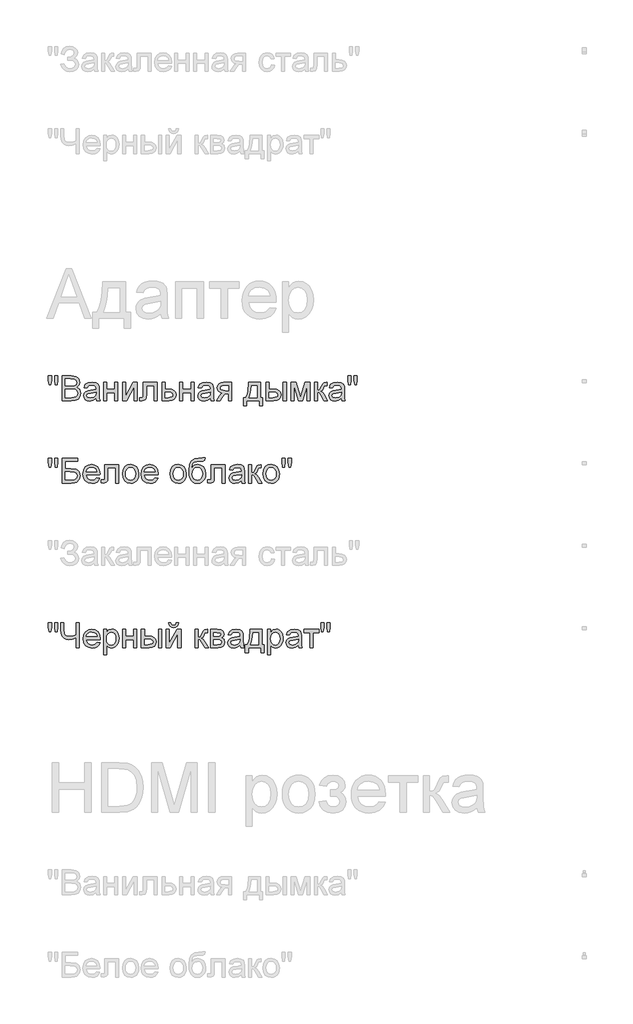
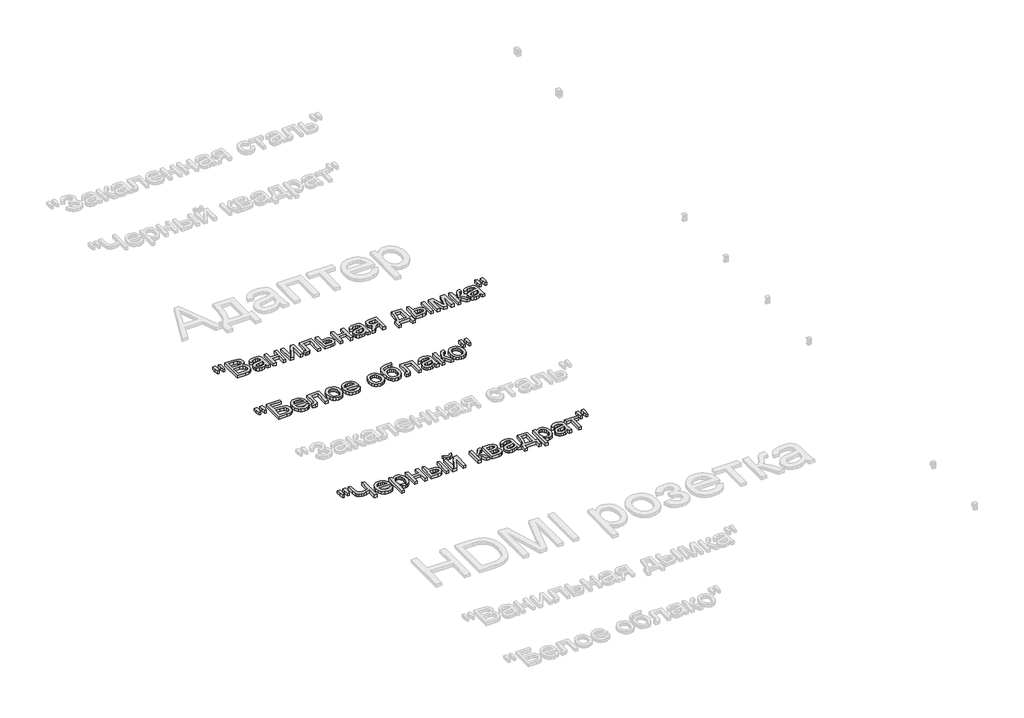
# One storey, part 57 of 168: 3 proxies.
"""IFC4 building model written with IfcOpenShell, lengths in millimetres."""

from ifc_helpers import new_model, si_unit, origin, origin_with_axes, place, context, project, spatial, polyline, outline, extrude, element, save

model = new_model("IFC4")

# Units and contexts
model_context = context("Model", 3, world=origin())
ifc_project = project(units=[si_unit("LENGTHUNIT", "METRE", prefix="MILLI")], contexts=[model_context])

# Site, building, storey
site = spatial("IfcSite", under=ifc_project)
building = spatial("IfcBuilding", under=site)
storey = spatial("IfcBuildingStorey", under=building, Name="Этаж 01", Elevation=0.0)

# Proxies
placement = place(None, origin())
element("IfcBuildingElementProxy", 1, Name="150", ObjectType="150", at=placement, inside=storey, context=model_context, shape_type="SweptSolid", body=[
    extrude(outline(polyline([(54389.7772739, -40970.3300622), (54385.178749, -40941.2305964), (54385.178749, -40916.1778325), (54404.0143071, -40916.1778325), (54404.0143071, -40941.2305964), (54399.8940288, -40970.3300622), (54389.7772739, -40970.3300622)])), origin_with_axes(), (0.0, 0.0, 1.0), 20.0),
    extrude(outline(polyline([(54427.3380256, -40970.3300622), (54422.8498653, -40941.2305964), (54422.8498653, -40916.1778325), (54441.6854234, -40916.1778325), (54441.6854234, -40941.2305964), (54437.2708395, -40970.3300622), (54427.3380256, -40970.3300622)])), origin_with_axes(), (0.0, 0.0, 1.0), 20.0),
    extrude(outline(polyline([(54467.5843159, -41066.8622977), (54467.5843159, -40916.1778325), (54525.0842718, -40916.1778325), (54553.2456385, -40920.6108106), (54562.7094028, -40926.2348066), (54569.8739047, -40934.2408385), (54575.8887753, -40953.517855), (54570.8303979, -40971.1210085), (54555.544901, -40984.4567308), (54566.2180773, -40990.030143), (54574.1045476, -40998.509823), (54578.9743855, -41009.3347507), (54580.5976648, -41021.9439061), (54576.1646868, -41042.19581), (54565.1834092, -41056.6167842), (54548.7942663, -41064.2687297), (54524.6428134, -41066.8622977), (54467.5843159, -41066.8622977)]), holes=[polyline([(54486.4198741, -40977.3933965), (54520.8168406, -40977.3933965), (54540.9031975, -40975.7747157), (54552.9881211, -40968.8033519), (54557.0532171, -40956.5344874), (54553.2640326, -40944.2472287), (54542.4115137, -40936.9815593), (54518.2048784, -40935.0133907), (54486.4198741, -40935.0133907), (54486.4198741, -40977.3933965)]), polyline([(54486.4198741, -41048.0267396), (54525.0474836, -41048.0267396), (54539.0269994, -41047.2909756), (54550.8544055, -41043.1890913), (54558.690292, -41034.819776), (54561.7621067, -41022.1278471), (54558.1568631, -41007.4861437), (54546.4766098, -40998.7489463), (54523.2080736, -40996.2289547), (54486.4198741, -40996.2289547), (54486.4198741, -41048.0267396)])]), origin_with_axes(), (0.0, 0.0, 1.0), 20.0),
    extrude(outline(polyline([(54674.7754556, -41052.7356291), (54656.5101145, -41065.5011344), (54636.3317871, -41069.2167425), (54620.5910362, -41066.9818594), (54608.9797608, -41060.27721), (54601.8198574, -41050.0960758), (54599.433223, -41037.4317381), (54603.0384665, -41022.5325173), (54612.5114279, -41011.7167867), (54625.6999974, -41005.5363691), (54641.9971698, -41002.7036778), (54674.665091, -40996.2289547), (54674.7754556, -40992.0350999), (54673.4786716, -40983.6289963), (54669.5883195, -40978.1291605), (54660.8879103, -40974.0456704), (54648.7661985, -40972.684507), (54629.7099112, -40976.3081446), (54620.6232259, -40989.1656204), (54601.7876677, -40986.8111756), (54609.9362539, -40968.4170758), (54626.3437909, -40957.6381334), (54651.1942197, -40953.8489488), (54674.0212975, -40957.196675), (54686.9155614, -40965.6027786), (54692.6913088, -40978.3866779), (54693.6110137, -40994.8677913), (54693.6110137, -41018.3018744), (54694.5675069, -41051.0249778), (54698.3199033, -41066.8622977), (54679.4843451, -41066.8622977), (54674.7754556, -41052.7356291)]), holes=[polyline([(54674.7754556, -41015.0645128), (54644.3884028, -41020.8402601), (54628.1832009, -41023.8936807), (54620.8439551, -41028.8600876), (54618.2687811, -41036.1073629), (54623.8789816, -41046.2976942), (54640.3417008, -41050.3811843), (54659.3979882, -41045.8746299), (54671.6852468, -41034.9669288), (54674.665091, -41020.3988017), (54674.7754556, -41015.0645128)])]), origin_with_axes(), (0.0, 0.0, 1.0), 20.0),
    extrude(outline(polyline([(54719.5099062, -40956.2033936), (54738.3454644, -40956.2033936), (54738.3454644, -40998.5833994), (54787.7888045, -40998.5833994), (54787.7888045, -40956.2033936), (54806.6243627, -40956.2033936), (54806.6243627, -41066.8622977), (54787.7888045, -41066.8622977), (54787.7888045, -41017.4189576), (54738.3454644, -41017.4189576), (54738.3454644, -41066.8622977), (54719.5099062, -41066.8622977), (54719.5099062, -40956.2033936)])), origin_with_axes(), (0.0, 0.0, 1.0), 20.0),
    extrude(outline(polyline([(54834.8776999, -40956.2033936), (54853.713258, -40956.2033936), (54853.713258, -41040.5955233), (54899.992813, -40956.2033936), (54924.3466011, -40956.2033936), (54924.3466011, -41066.8622977), (54905.511043, -41066.8622977), (54905.511043, -40982.9852028), (54859.5257936, -41066.8622977), (54834.8776999, -41066.8622977), (54834.8776999, -40956.2033936)])), origin_with_axes(), (0.0, 0.0, 1.0), 20.0),
    extrude(outline(polyline([(54962.0177174, -40956.2033936), (55046.7777291, -40956.2033936), (55046.7777291, -41066.7519331), (55027.942171, -41066.7519331), (55027.942171, -40975.0389517), (54980.8532756, -40975.0389517), (54980.8532756, -41027.830018), (54979.5840827, -41052.1838061), (54972.6127189, -41062.4661079), (54956.1316055, -41066.8622977), (54940.8277145, -41065.9058045), (54940.8277145, -41048.0267396), (54949.2522122, -41048.0267396), (54957.7686804, -41046.8679113), (54961.1715888, -41043.1890913), (54962.0177174, -41026.7631603), (54962.0177174, -40956.2033936)])), origin_with_axes(), (0.0, 0.0, 1.0), 20.0),
    extrude(outline(polyline([(55075.0310663, -40956.2033936), (55093.8666245, -40956.2033936), (55093.8666245, -40996.2289547), (55115.5716622, -40996.2289547), (55134.3888263, -40998.587998), (55148.3131598, -41005.6651278), (55156.9215985, -41016.8901272), (55159.791078, -41031.692779), (55157.3492613, -41045.1710556), (55150.0238111, -41056.5432078), (55137.3272837, -41064.2825252), (55118.7722356, -41066.8622977), (55075.0310663, -41066.8622977), (55075.0310663, -40956.2033936)]), holes=[polyline([(55093.8666245, -41048.0267396), (55111.4513839, -41048.0267396), (55134.1680971, -41044.0720081), (55139.2586642, -41039.0090322), (55140.9555199, -41031.7295672), (55135.9339306, -41020.1412843), (55127.8635194, -41016.3337057), (55113.695464, -41015.0645128), (55093.8666245, -41015.0645128), (55093.8666245, -41048.0267396)])]), origin_with_axes(), (0.0, 0.0, 1.0), 20.0),
    extrude(outline(polyline([(55183.3355257, -40956.2033936), (55202.1710839, -40956.2033936), (55202.1710839, -40998.5833994), (55251.614424, -40998.5833994), (55251.614424, -40956.2033936), (55270.4499822, -40956.2033936), (55270.4499822, -41066.8622977), (55251.614424, -41066.8622977), (55251.614424, -41017.4189576), (55202.1710839, -41017.4189576), (55202.1710839, -41066.8622977), (55183.3355257, -41066.8622977), (55183.3355257, -40956.2033936)])), origin_with_axes(), (0.0, 0.0, 1.0), 20.0),
    extrude(outline(polyline([(55369.3366625, -41052.7356291), (55351.0713214, -41065.5011344), (55330.892994, -41069.2167425), (55315.1522431, -41066.9818594), (55303.5409676, -41060.27721), (55296.3810643, -41050.0960758), (55293.9944299, -41037.4317381), (55297.5996734, -41022.5325173), (55307.0726348, -41011.7167867), (55320.2612043, -41005.5363691), (55336.5583767, -41002.7036778), (55369.2262979, -40996.2289547), (55369.3366625, -40992.0350999), (55368.0398785, -40983.6289963), (55364.1495264, -40978.1291605), (55355.4491172, -40974.0456704), (55343.3274054, -40972.684507), (55324.2711181, -40976.3081446), (55315.1844328, -40989.1656204), (55296.3488746, -40986.8111756), (55304.4974608, -40968.4170758), (55320.9049978, -40957.6381334), (55345.7554266, -40953.8489488), (55368.5825044, -40957.196675), (55381.4767683, -40965.6027786), (55387.2525157, -40978.3866779), (55388.1722206, -40994.8677913), (55388.1722206, -41018.3018744), (55389.1287138, -41051.0249778), (55392.8811102, -41066.8622977), (55374.045552, -41066.8622977), (55369.3366625, -41052.7356291)]), holes=[polyline([(55369.3366625, -41015.0645128), (55338.9496097, -41020.8402601), (55322.7444078, -41023.8936807), (55315.405162, -41028.8600876), (55312.829988, -41036.1073629), (55318.4401885, -41046.2976942), (55334.9029077, -41050.3811843), (55353.9591951, -41045.8746299), (55366.2464537, -41034.9669288), (55369.2262979, -41020.3988017), (55369.3366625, -41015.0645128)])]), origin_with_axes(), (0.0, 0.0, 1.0), 20.0),
    extrude(outline(polyline([(55498.8311248, -40956.2033936), (55498.8311248, -41066.8622977), (55479.9955666, -41066.8622977), (55479.9955666, -41024.4822919), (55469.731659, -41024.4822919), (55455.7521432, -41026.8735249), (55442.6187559, -41042.949968), (55427.6091705, -41066.8622977), (55405.8305564, -41066.8622977), (55424.739691, -41036.6223977), (55433.0906122, -41025.7698789), (55440.7793459, -41020.9506247), (55427.9034761, -41017.0050903), (55418.853579, -41009.5094947), (55413.500896, -40999.5398926), (55411.7166683, -40988.172339), (55414.1538865, -40975.278075), (55421.4655412, -40965.0693497), (55433.3941149, -40958.4198826), (55449.6820902, -40956.2033936), (55498.8311248, -40956.2033936)]), holes=[polyline([(55479.9955666, -40975.0389517), (55455.163532, -40975.0389517), (55442.3382459, -40976.1288021), (55435.0587809, -40979.3983534), (55430.5522265, -40989.6070787), (55432.212294, -40996.7853762), (55437.1924965, -41001.7655787), (55460.7185501, -41005.6467337), (55479.9955666, -41005.6467337), (55479.9955666, -40975.0389517)])]), origin_with_axes(), (0.0, 0.0, 1.0), 20.0),
    extrude(outline(polyline([(55602.4266946, -40956.2033936), (55673.0600377, -40956.2033936), (55673.0600377, -41048.0267396), (55687.1867063, -41048.0267396), (55687.1867063, -41097.4700797), (55668.3511482, -41097.4700797), (55668.3511482, -41066.8622977), (55590.6544708, -41066.8622977), (55590.6544708, -41097.4700797), (55571.8189126, -41097.4700797), (55571.8189126, -41048.0267396), (55583.5911365, -41048.0267396), (55592.1489914, -41032.5619002), (55598.1408694, -41012.1030628), (55602.4266946, -40956.2033936)]), holes=[polyline([(55618.907808, -40975.0389517), (55614.4932241, -41017.9523865), (55604.7811394, -41048.0267396), (55654.2244796, -41048.0267396), (55654.2244796, -40975.0389517), (55618.907808, -40975.0389517)])]), origin_with_axes(), (0.0, 0.0, 1.0), 20.0),
    extrude(outline(polyline([(55811.9722791, -40956.2033936), (55830.8078372, -40956.2033936), (55830.8078372, -41066.8622977), (55811.9722791, -41066.8622977), (55811.9722791, -40956.2033936)])), origin_with_axes(), (0.0, 0.0, 1.0), 20.0),
    extrude(outline(polyline([(55708.3767092, -40956.2033936), (55727.2122674, -40956.2033936), (55727.2122674, -40996.2289547), (55750.4991977, -40996.2289547), (55770.6269413, -40998.587998), (55785.5399577, -41005.6651278), (55794.7691973, -41016.8901272), (55797.8456105, -41031.692779), (55795.265838, -41045.1710556), (55787.5265205, -41056.5432078), (55774.1218203, -41064.2825252), (55754.5458996, -41066.8622977), (55708.3767092, -41066.8622977), (55708.3767092, -40956.2033936)]), holes=[polyline([(55727.2122674, -41048.0267396), (55746.5628603, -41048.0267396), (55771.5420478, -41044.0720081), (55777.1430512, -41039.0090322), (55779.0100523, -41031.7295672), (55773.4734283, -41020.1412843), (55764.5936766, -41016.3337057), (55749.0276697, -41015.0645128), (55727.2122674, -41015.0645128), (55727.2122674, -41048.0267396)])]), origin_with_axes(), (0.0, 0.0, 1.0), 20.0),
    extrude(outline(polyline([(55859.0611745, -40956.2033936), (55891.4715782, -40956.2033936), (55916.4507657, -41044.789378), (55943.3797278, -40956.2033936), (55974.4289682, -40956.2033936), (55974.4289682, -41066.8622977), (55955.59341, -41066.8622977), (55955.59341, -40977.7612785), (55928.5172952, -41066.8622977), (55903.7956251, -41066.8622977), (55877.8967326, -40973.4938474), (55877.8967326, -41066.8622977), (55859.0611745, -41066.8622977), (55859.0611745, -40956.2033936)])), origin_with_axes(), (0.0, 0.0, 1.0), 20.0),
    extrude(outline(polyline([(56002.6823054, -40956.2033936), (56021.5178635, -40956.2033936), (56021.5178635, -41003.292289), (56034.136216, -40999.9077746), (56044.4737, -40980.1892997), (56053.0637446, -40963.1747574), (56060.6421137, -40957.6381334), (56074.4192944, -40956.2033936), (56078.024538, -40956.2033936), (56078.024538, -40975.1493163), (56072.9477665, -40975.0389517), (56063.7507166, -40977.0255145), (56057.2759935, -40989.4231377), (56049.6792303, -41002.8324365), (56039.0290465, -41009.3991301), (56050.9116349, -41016.7291788), (56062.5734942, -41032.1710256), (56082.7334275, -41066.8622977), (56061.3226954, -41066.8622977), (56041.5674323, -41032.9067896), (56031.6346184, -41018.5409977), (56021.5178635, -41015.0645128), (56021.5178635, -41066.8622977), (56002.6823054, -41066.8622977), (56002.6823054, -40956.2033936)])), origin_with_axes(), (0.0, 0.0, 1.0), 20.0),
    extrude(outline(polyline([(56165.1389945, -41052.7356291), (56146.8736534, -41065.5011344), (56126.695326, -41069.2167425), (56110.9545751, -41066.9818594), (56099.3432996, -41060.27721), (56092.1833963, -41050.0960758), (56089.7967618, -41037.4317381), (56093.4020054, -41022.5325173), (56102.8749668, -41011.7167867), (56116.0635363, -41005.5363691), (56132.3607087, -41002.7036778), (56165.0286299, -40996.2289547), (56165.1389945, -40992.0350999), (56163.8422104, -40983.6289963), (56159.9518583, -40978.1291605), (56151.2514491, -40974.0456704), (56139.1297374, -40972.684507), (56120.07345, -40976.3081446), (56110.9867648, -40989.1656204), (56092.1512066, -40986.8111756), (56100.2997928, -40968.4170758), (56116.7073298, -40957.6381334), (56141.5577586, -40953.8489488), (56164.3848364, -40957.196675), (56177.2791003, -40965.6027786), (56183.0548476, -40978.3866779), (56183.9745526, -40994.8677913), (56183.9745526, -41018.3018744), (56184.9310458, -41051.0249778), (56188.6834421, -41066.8622977), (56169.847884, -41066.8622977), (56165.1389945, -41052.7356291)]), holes=[polyline([(56165.1389945, -41015.0645128), (56134.7519417, -41020.8402601), (56118.5467398, -41023.8936807), (56111.207494, -41028.8600876), (56108.63232, -41036.1073629), (56114.2425204, -41046.2976942), (56130.7052397, -41050.3811843), (56149.7615271, -41045.8746299), (56162.0487857, -41034.9669288), (56165.0286299, -41020.3988017), (56165.1389945, -41015.0645128)])]), origin_with_axes(), (0.0, 0.0, 1.0), 20.0),
    extrude(outline(polyline([(56209.7630805, -40970.3300622), (56205.1645555, -40941.2305964), (56205.1645555, -40916.1778325), (56224.0001137, -40916.1778325), (56224.0001137, -40941.2305964), (56219.8798353, -40970.3300622), (56209.7630805, -40970.3300622)])), origin_with_axes(), (0.0, 0.0, 1.0), 20.0),
    extrude(outline(polyline([(56247.3238322, -40970.3300622), (56242.8356718, -40941.2305964), (56242.8356718, -40916.1778325), (56261.67123, -40916.1778325), (56261.67123, -40941.2305964), (56257.256646, -40970.3300622), (56247.3238322, -40970.3300622)])), origin_with_axes(), (0.0, 0.0, 1.0), 20.0),
])
element("IfcBuildingElementProxy", 2, Name="150", ObjectType="150", at=placement, inside=storey, context=model_context, shape_type="SweptSolid", body=[
    extrude(outline(polyline([(54389.7772739, -41470.3300622), (54385.178749, -41441.2305964), (54385.178749, -41416.1778325), (54404.0143071, -41416.1778325), (54404.0143071, -41441.2305964), (54399.8940288, -41470.3300622), (54389.7772739, -41470.3300622)])), origin_with_axes(), (0.0, 0.0, 1.0), 20.0),
    extrude(outline(polyline([(54427.3380256, -41470.3300622), (54422.8498653, -41441.2305964), (54422.8498653, -41416.1778325), (54441.6854234, -41416.1778325), (54441.6854234, -41441.2305964), (54437.2708395, -41470.3300622), (54427.3380256, -41470.3300622)])), origin_with_axes(), (0.0, 0.0, 1.0), 20.0),
    extrude(outline(polyline([(54467.5843159, -41416.1778325), (54561.7621067, -41416.1778325), (54561.7621067, -41435.0133907), (54486.4198741, -41435.0133907), (54486.4198741, -41479.7478413), (54521.6997574, -41479.7478413), (54552.785786, -41483.573814), (54563.1876494, -41489.101241), (54571.2902503, -41498.0315764), (54576.5049776, -41509.5278888), (54578.2432201, -41522.7532465), (54573.2952072, -41544.2191609), (54558.5247451, -41560.5347274), (54545.2534021, -41565.2804052), (54525.0842718, -41566.8622977), (54467.5843159, -41566.8622977), (54467.5843159, -41416.1778325)]), holes=[polyline([(54486.4198741, -41548.0267396), (54526.7765289, -41548.0267396), (54541.0411533, -41546.4724382), (54551.2406816, -41541.8095339), (54557.3659168, -41534.0380267), (54559.4076619, -41523.1579167), (54554.7355606, -41508.4058487), (54541.730932, -41500.533174), (54513.3488361, -41498.5833994), (54486.4198741, -41498.5833994), (54486.4198741, -41548.0267396)])]), origin_with_axes(), (0.0, 0.0, 1.0), 20.0),
    extrude(outline(polyline([(54679.2636159, -41533.900071), (54697.7312921, -41536.2545157), (54691.0772265, -41550.1696522), (54680.4592324, -41560.5715156), (54666.1164331, -41567.0554358), (54648.2879519, -41569.2167425), (54626.1874411, -41565.4873388), (54609.1820959, -41554.2991276), (54598.338774, -41536.3786759), (54594.7243334, -41512.4525506), (54598.3755622, -41487.7216835), (54609.3292486, -41469.2264162), (54626.1046676, -41457.6933157), (54647.2210942, -41453.8489488), (54667.6799316, -41457.6841186), (54684.0276878, -41469.189628), (54694.7468494, -41487.6481071), (54698.3199033, -41512.342186), (54698.2095387, -41517.4189576), (54613.5598916, -41517.4189576), (54616.8202458, -41531.518035), (54624.3940164, -41541.8831103), (54635.3247101, -41548.2566658), (54648.6558339, -41550.3811843), (54667.1235101, -41546.444847), (54679.2636159, -41533.900071)]), holes=[polyline([(54613.5598916, -41498.5833994), (54679.4843451, -41498.5833994), (54676.9367623, -41488.6321915), (54671.9427642, -41481.5136749), (54660.9614867, -41474.8917989), (54647.1475178, -41472.684507), (54634.4509904, -41474.445742), (54623.952558, -41479.7294472), (54616.6546989, -41487.9654053), (54613.5598916, -41498.5833994)])]), origin_with_axes(), (0.0, 0.0, 1.0), 20.0),
    extrude(outline(polyline([(54726.5732405, -41456.2033936), (54811.3332522, -41456.2033936), (54811.3332522, -41566.7519331), (54792.497694, -41566.7519331), (54792.497694, -41475.0389517), (54745.4087987, -41475.0389517), (54745.4087987, -41527.830018), (54744.1396058, -41552.1838061), (54737.168242, -41562.4661079), (54720.6871286, -41566.8622977), (54705.3832376, -41565.9058045), (54705.3832376, -41548.0267396), (54713.8077353, -41548.0267396), (54722.3242035, -41546.8679113), (54725.7271119, -41543.1890913), (54726.5732405, -41526.7631603), (54726.5732405, -41456.2033936)])), origin_with_axes(), (0.0, 0.0, 1.0), 20.0),
    extrude(outline(polyline([(54834.8776999, -41511.5328457), (54838.951993, -41484.852204), (54851.1748723, -41466.0994193), (54866.2764282, -41456.9115664), (54884.3578282, -41453.8489488), (54904.1452811, -41457.5783525), (54919.9504113, -41468.7665637), (54930.310888, -41486.5306656), (54933.7643802, -41509.9877413), (54932.2376699, -41529.0164375), (54927.6575391, -41543.501791), (54920.1573449, -41554.3497114), (54909.8704446, -41562.4661079), (54897.6521638, -41567.5290839), (54884.3578282, -41569.2167425), (54864.3312521, -41565.5011344), (54848.544516, -41554.3543099), (54838.2944039, -41536.2177275), (54834.8776999, -41511.5328457)]), holes=[polyline([(54853.713258, -41511.4960575), (54855.8929589, -41528.5427894), (54862.4320613, -41540.6874938), (54872.2729047, -41547.9577617), (54884.3578282, -41550.3811843), (54896.3875695, -41547.9439661), (54906.2100188, -41540.6323115), (54912.7491212, -41528.3266587), (54914.928822, -41510.9074463), (54912.7353256, -41494.357355), (54906.1548365, -41482.3781975), (54896.3185916, -41475.1079296), (54884.3578282, -41472.684507), (54872.2729047, -41475.0987326), (54862.4320613, -41482.3414093), (54855.8929589, -41494.4585226), (54853.713258, -41511.4960575)])]), origin_with_axes(), (0.0, 0.0, 1.0), 20.0),
    extrude(outline(polyline([(55032.4303313, -41533.900071), (55050.8980075, -41536.2545157), (55044.2439419, -41550.1696522), (55033.6259478, -41560.5715156), (55019.2831485, -41567.0554358), (55001.4546673, -41569.2167425), (54979.3541564, -41565.4873388), (54962.3488112, -41554.2991276), (54951.5054894, -41536.3786759), (54947.8910488, -41512.4525506), (54951.5422776, -41487.7216835), (54962.495964, -41469.2264162), (54979.271383, -41457.6933157), (55000.3878095, -41453.8489488), (55020.846647, -41457.6841186), (55037.1944031, -41469.189628), (55047.9135648, -41487.6481071), (55051.4866187, -41512.342186), (55051.3762541, -41517.4189576), (54966.726607, -41517.4189576), (54969.9869611, -41531.518035), (54977.5607317, -41541.8831103), (54988.4914255, -41548.2566658), (55001.8225493, -41550.3811843), (55020.2902255, -41546.444847), (55032.4303313, -41533.900071)]), holes=[polyline([(54966.726607, -41498.5833994), (55032.6510605, -41498.5833994), (55030.1034777, -41488.6321915), (55025.1094796, -41481.5136749), (55014.128202, -41474.8917989), (55000.3142331, -41472.684507), (54987.6177058, -41474.445742), (54977.1192733, -41479.7294472), (54969.8214142, -41487.9654053), (54966.726607, -41498.5833994)])]), origin_with_axes(), (0.0, 0.0, 1.0), 20.0),
    extrude(outline(polyline([(55124.4744065, -41511.5328457), (55128.5486996, -41484.852204), (55140.7715789, -41466.0994193), (55155.8731348, -41456.9115664), (55173.9545348, -41453.8489488), (55193.7419877, -41457.5783525), (55209.5471179, -41468.7665637), (55219.9075946, -41486.5306656), (55223.3610868, -41509.9877413), (55221.8343765, -41529.0164375), (55217.2542457, -41543.501791), (55209.7540515, -41554.3497114), (55199.4671512, -41562.4661079), (55187.2488704, -41567.5290839), (55173.9545348, -41569.2167425), (55153.9279587, -41565.5011344), (55138.1412226, -41554.3543099), (55127.8911105, -41536.2177275), (55124.4744065, -41511.5328457)]), holes=[polyline([(55143.3099646, -41511.4960575), (55145.4896655, -41528.5427894), (55152.0287679, -41540.6874938), (55161.8696113, -41547.9577617), (55173.9545348, -41550.3811843), (55185.9842761, -41547.9439661), (55195.8067254, -41540.6323115), (55202.3458278, -41528.3266587), (55204.5255286, -41510.9074463), (55202.3320323, -41494.357355), (55195.7515431, -41482.3781975), (55185.9152982, -41475.1079296), (55173.9545348, -41472.684507), (55161.8696113, -41475.0987326), (55152.0287679, -41482.3414093), (55145.4896655, -41494.4585226), (55143.3099646, -41511.4960575)])]), origin_with_axes(), (0.0, 0.0, 1.0), 20.0),
    extrude(outline(polyline([(55322.2477671, -41413.8233877), (55338.7288805, -41413.8233877), (55333.8728382, -41428.5202734), (55324.2711181, -41433.8361683), (55301.204917, -41435.0133907), (55270.1372825, -41439.3543982), (55263.0095688, -41445.0013868), (55258.2179058, -41453.2603376), (55254.189598, -41477.8716431), (55270.5051645, -41459.8454253), (55280.4241828, -41455.3480679), (55291.5296205, -41453.8489488), (55311.1285338, -41457.661126), (55327.030233, -41469.0976575), (55337.5700522, -41487.0365033), (55341.0833253, -41510.3556233), (55339.3404843, -41528.3358558), (55334.1119614, -41542.766027), (55317.5756658, -41562.3189551), (55306.2816885, -41567.4922957), (55291.5296205, -41569.2167425), (55274.5288738, -41566.995655), (55261.7863612, -41560.3323923), (55252.4099688, -41550.2064404), (55245.5075829, -41537.597285), (55241.2585459, -41518.6099755), (55239.8422002, -41489.3495614), (55243.4152541, -41453.2097538), (55254.1344157, -41431.1690238), (55272.2663995, -41419.9256303), (55298.07792, -41416.1778325), (55319.0471937, -41415.7547682), (55322.2477671, -41413.8233877)]), holes=[polyline([(55322.2477671, -41509.7670121), (55320.206022, -41494.9459662), (55314.0807868, -41483.0771733), (55304.2399434, -41475.2826736), (55291.0513739, -41472.684507), (55277.3017843, -41475.4298264), (55267.102256, -41483.6657845), (55260.7838828, -41496.4910706), (55258.6777583, -41513.0043736), (55261.004612, -41529.011839), (55267.9851728, -41540.7610702), (55278.3778392, -41547.9761558), (55290.9410093, -41550.3811843), (55303.5685588, -41547.5990768), (55313.565752, -41539.252754), (55320.0772633, -41526.3171033), (55322.2477671, -41509.7670121)])]), origin_with_axes(), (0.0, 0.0, 1.0), 20.0),
    extrude(outline(polyline([(55374.045552, -41456.2033936), (55458.8055637, -41456.2033936), (55458.8055637, -41566.7519331), (55439.9700056, -41566.7519331), (55439.9700056, -41475.0389517), (55392.8811102, -41475.0389517), (55392.8811102, -41527.830018), (55391.6119173, -41552.1838061), (55384.6405535, -41562.4661079), (55368.1594401, -41566.8622977), (55352.8555491, -41565.9058045), (55352.8555491, -41548.0267396), (55361.2800468, -41548.0267396), (55369.796515, -41546.8679113), (55373.1994234, -41543.1890913), (55374.045552, -41526.7631603), (55374.045552, -41456.2033936)])), origin_with_axes(), (0.0, 0.0, 1.0), 20.0),
    extrude(outline(polyline([(55557.692244, -41552.7356291), (55539.426903, -41565.5011344), (55519.2485755, -41569.2167425), (55503.5078247, -41566.9818594), (55491.8965492, -41560.27721), (55484.7366458, -41550.0960758), (55482.3500114, -41537.4317381), (55485.955255, -41522.5325173), (55495.4282163, -41511.7167867), (55508.6167859, -41505.5363691), (55524.9139582, -41502.7036778), (55557.5818794, -41496.2289547), (55557.692244, -41492.0350999), (55556.39546, -41483.6289963), (55552.5051079, -41478.1291605), (55543.8046987, -41474.0456704), (55531.682987, -41472.684507), (55512.6266996, -41476.3081446), (55503.5400143, -41489.1656204), (55484.7044562, -41486.8111756), (55492.8530424, -41468.4170758), (55509.2605794, -41457.6381334), (55534.1110081, -41453.8489488), (55556.9380859, -41457.196675), (55569.8323499, -41465.6027786), (55575.6080972, -41478.3866779), (55576.5278022, -41494.8677913), (55576.5278022, -41518.3018744), (55577.4842954, -41551.0249778), (55581.2366917, -41566.8622977), (55562.4011336, -41566.8622977), (55557.692244, -41552.7356291)]), holes=[polyline([(55557.692244, -41515.0645128), (55527.3051912, -41520.8402601), (55511.0999893, -41523.8936807), (55503.7607435, -41528.8600876), (55501.1855696, -41536.1073629), (55506.79577, -41546.2976942), (55523.2584893, -41550.3811843), (55542.3147766, -41545.8746299), (55554.6020353, -41534.9669288), (55557.5818794, -41520.3988017), (55557.692244, -41515.0645128)])]), origin_with_axes(), (0.0, 0.0, 1.0), 20.0),
    extrude(outline(polyline([(55602.4266946, -41456.2033936), (55621.2622528, -41456.2033936), (55621.2622528, -41503.292289), (55633.8806052, -41499.9077746), (55644.2180893, -41480.1892997), (55652.8081339, -41463.1747574), (55660.386503, -41457.6381334), (55674.1636837, -41456.2033936), (55677.7689272, -41456.2033936), (55677.7689272, -41475.1493163), (55672.6921557, -41475.0389517), (55663.4951058, -41477.0255145), (55657.0203827, -41489.4231377), (55649.4236195, -41502.8324365), (55638.7734358, -41509.3991301), (55650.6560242, -41516.7291788), (55662.3178834, -41532.1710256), (55682.4778168, -41566.8622977), (55661.0670847, -41566.8622977), (55641.3118215, -41532.9067896), (55631.3790077, -41518.5409977), (55621.2622528, -41515.0645128), (55621.2622528, -41566.8622977), (55602.4266946, -41566.8622977), (55602.4266946, -41456.2033936)])), origin_with_axes(), (0.0, 0.0, 1.0), 20.0),
    extrude(outline(polyline([(55689.5411511, -41511.5328457), (55693.6154442, -41484.852204), (55705.8383235, -41466.0994193), (55720.9398794, -41456.9115664), (55739.0212794, -41453.8489488), (55758.8087323, -41457.5783525), (55774.6138625, -41468.7665637), (55784.9743392, -41486.5306656), (55788.4278314, -41509.9877413), (55786.9011211, -41529.0164375), (55782.3209903, -41543.501791), (55774.8207961, -41554.3497114), (55764.5338958, -41562.4661079), (55752.315615, -41567.5290839), (55739.0212794, -41569.2167425), (55718.9947033, -41565.5011344), (55703.2079672, -41554.3543099), (55692.9578551, -41536.2177275), (55689.5411511, -41511.5328457)]), holes=[polyline([(55708.3767092, -41511.4960575), (55710.5564101, -41528.5427894), (55717.0955125, -41540.6874938), (55726.9363559, -41547.9577617), (55739.0212794, -41550.3811843), (55751.0510207, -41547.9439661), (55760.87347, -41540.6323115), (55767.4125724, -41528.3266587), (55769.5922732, -41510.9074463), (55767.3987768, -41494.357355), (55760.8182877, -41482.3781975), (55750.9820428, -41475.1079296), (55739.0212794, -41472.684507), (55726.9363559, -41475.0987326), (55717.0955125, -41482.3414093), (55710.5564101, -41494.4585226), (55708.3767092, -41511.4960575)])]), origin_with_axes(), (0.0, 0.0, 1.0), 20.0),
    extrude(outline(polyline([(55809.5074697, -41470.3300622), (55804.9089448, -41441.2305964), (55804.9089448, -41416.1778325), (55823.7445029, -41416.1778325), (55823.7445029, -41441.2305964), (55819.6242246, -41470.3300622), (55809.5074697, -41470.3300622)])), origin_with_axes(), (0.0, 0.0, 1.0), 20.0),
    extrude(outline(polyline([(55847.0682214, -41470.3300622), (55842.5800611, -41441.2305964), (55842.5800611, -41416.1778325), (55861.4156192, -41416.1778325), (55861.4156192, -41441.2305964), (55857.0010353, -41470.3300622), (55847.0682214, -41470.3300622)])), origin_with_axes(), (0.0, 0.0, 1.0), 20.0),
])
element("IfcBuildingElementProxy", 3, Name="150", ObjectType="150", at=placement, inside=storey, context=model_context, shape_type="SweptSolid", body=[
    extrude(outline(polyline([(54389.7772739, -42470.3300622), (54385.178749, -42441.2305964), (54385.178749, -42416.1778325), (54404.0143071, -42416.1778325), (54404.0143071, -42441.2305964), (54399.8940288, -42470.3300622), (54389.7772739, -42470.3300622)])), origin_with_axes(), (0.0, 0.0, 1.0), 20.0),
    extrude(outline(polyline([(54427.3380256, -42470.3300622), (54422.8498653, -42441.2305964), (54422.8498653, -42416.1778325), (54441.6854234, -42416.1778325), (54441.6854234, -42441.2305964), (54437.2708395, -42470.3300622), (54427.3380256, -42470.3300622)])), origin_with_axes(), (0.0, 0.0, 1.0), 20.0),
    extrude(outline(polyline([(54573.5343305, -42566.8622977), (54554.6987724, -42566.8622977), (54554.6987724, -42506.5296505), (54529.7195849, -42514.6966308), (54508.0513354, -42517.4189576), (54493.3682452, -42515.556555), (54480.515368, -42509.9693472), (54470.554963, -42501.5172583), (54464.5492894, -42491.0602126), (54460.5209816, -42461.0594359), (54460.5209816, -42416.1778325), (54479.3565398, -42416.1778325), (54479.3565398, -42458.5210502), (54481.619014, -42478.8879171), (54488.4064368, -42490.8394834), (54498.3668419, -42496.6474204), (54510.1482628, -42498.5833994), (54531.8808916, -42496.2473488), (54554.6987724, -42489.2391968), (54554.6987724, -42416.1778325), (54573.5343305, -42416.1778325), (54573.5343305, -42566.8622977)])), origin_with_axes(), (0.0, 0.0, 1.0), 20.0),
    extrude(outline(polyline([(54681.6180607, -42533.900071), (54700.0857369, -42536.2545157), (54693.4316713, -42550.1696522), (54682.8136772, -42560.5715156), (54668.4708779, -42567.0554358), (54650.6423967, -42569.2167425), (54628.5418858, -42565.4873388), (54611.5365406, -42554.2991276), (54600.6932188, -42536.3786759), (54597.0787782, -42512.4525506), (54600.730007, -42487.7216835), (54611.6836934, -42469.2264162), (54628.4591124, -42457.6933157), (54649.5755389, -42453.8489488), (54670.0343764, -42457.6841186), (54686.3821325, -42469.189628), (54697.1012942, -42487.6481071), (54700.6743481, -42512.342186), (54700.5639835, -42517.4189576), (54615.9143364, -42517.4189576), (54619.1746905, -42531.518035), (54626.7484611, -42541.8831103), (54637.6791549, -42548.2566658), (54651.0102787, -42550.3811843), (54669.4779549, -42546.444847), (54681.6180607, -42533.900071)]), holes=[polyline([(54615.9143364, -42498.5833994), (54681.8387899, -42498.5833994), (54679.2912071, -42488.6321915), (54674.297209, -42481.5136749), (54663.3159314, -42474.8917989), (54649.5019625, -42472.684507), (54636.8054352, -42474.445742), (54626.3070027, -42479.7294472), (54619.0091436, -42487.9654053), (54615.9143364, -42498.5833994)])]), origin_with_axes(), (0.0, 0.0, 1.0), 20.0),
    extrude(outline(polyline([(54719.5099062, -42609.2423036), (54719.5099062, -42456.2033936), (54738.3454644, -42456.2033936), (54738.3454644, -42474.6710697), (54751.368487, -42459.054479), (54768.9532464, -42453.8489488), (54781.6911604, -42455.6699647), (54792.8287878, -42461.1330123), (54801.897079, -42469.9069979), (54808.4269844, -42481.6608277), (54813.687697, -42510.6867171), (54812.2023734, -42526.7953499), (54807.7464027, -42541.2025286), (54800.4623392, -42553.1770875), (54790.4927372, -42561.9878613), (54778.8814617, -42567.4095222), (54766.672378, -42569.2167425), (54750.2832351, -42564.3790943), (54738.3454644, -42552.1470179), (54738.3454644, -42609.2423036), (54719.5099062, -42609.2423036)]), holes=[polyline([(54738.3454644, -42512.4157624), (54740.3826109, -42529.301546), (54746.4940506, -42541.1105581), (54755.511758, -42548.0635278), (54766.2677078, -42550.3811843), (54777.1984016, -42547.9807543), (54786.4460352, -42540.7794643), (54792.7506129, -42528.5381909), (54794.8521388, -42511.0178109), (54792.8011967, -42494.2239978), (54786.6483703, -42482.2494388), (54777.6444585, -42475.0757399), (54767.04026, -42472.684507), (54756.3946747, -42475.2274913), (54747.0458735, -42482.8564441), (54740.5205667, -42495.3322423), (54738.3454644, -42512.4157624)])]), origin_with_axes(), (0.0, 0.0, 1.0), 20.0),
    extrude(outline(polyline([(54834.8776999, -42456.2033936), (54853.713258, -42456.2033936), (54853.713258, -42498.5833994), (54903.1565982, -42498.5833994), (54903.1565982, -42456.2033936), (54921.9921564, -42456.2033936), (54921.9921564, -42566.8622977), (54903.1565982, -42566.8622977), (54903.1565982, -42517.4189576), (54853.713258, -42517.4189576), (54853.713258, -42566.8622977), (54834.8776999, -42566.8622977), (54834.8776999, -42456.2033936)])), origin_with_axes(), (0.0, 0.0, 1.0), 20.0),
    extrude(outline(polyline([(55053.8410634, -42456.2033936), (55072.6766216, -42456.2033936), (55072.6766216, -42566.8622977), (55053.8410634, -42566.8622977), (55053.8410634, -42456.2033936)])), origin_with_axes(), (0.0, 0.0, 1.0), 20.0),
    extrude(outline(polyline([(54950.2454936, -42456.2033936), (54969.0810517, -42456.2033936), (54969.0810517, -42496.2289547), (54992.367982, -42496.2289547), (55012.4957257, -42498.587998), (55027.4087421, -42505.6651278), (55036.6379816, -42516.8901272), (55039.7143948, -42531.692779), (55037.1346223, -42545.1710556), (55029.3953048, -42556.5432078), (55015.9906046, -42564.2825252), (54996.414684, -42566.8622977), (54950.2454936, -42566.8622977), (54950.2454936, -42456.2033936)]), holes=[polyline([(54969.0810517, -42548.0267396), (54988.4316447, -42548.0267396), (55013.4108322, -42544.0720081), (55019.0118355, -42539.0090322), (55020.8788367, -42531.7295672), (55015.3422126, -42520.1412843), (55006.462461, -42516.3337057), (54990.896454, -42515.0645128), (54969.0810517, -42515.0645128), (54969.0810517, -42548.0267396)])]), origin_with_axes(), (0.0, 0.0, 1.0), 20.0),
    extrude(outline(polyline([(55100.9299588, -42456.2033936), (55119.765517, -42456.2033936), (55119.765517, -42540.5955233), (55166.045072, -42456.2033936), (55190.39886, -42456.2033936), (55190.39886, -42566.8622977), (55171.5633019, -42566.8622977), (55171.5633019, -42482.9852028), (55125.5780525, -42566.8622977), (55100.9299588, -42566.8622977), (55100.9299588, -42456.2033936)])), origin_with_axes(), (0.0, 0.0, 1.0), 20.0),
    extrude(outline(polyline([(55162.1455228, -42416.1778325), (55176.2721914, -42416.1778325), (55173.2325664, -42428.2397634), (55167.1303238, -42437.1287121), (55158.2413751, -42442.6055553), (55146.8416318, -42444.4311697), (55134.4715997, -42442.6193509), (55124.8790767, -42437.1838944), (55118.3215801, -42428.3087413), (55115.0566274, -42416.1778325), (55129.183296, -42416.1778325), (55134.4807968, -42426.7912281), (55145.1493746, -42430.3045011), (55156.8480221, -42426.9015927), (55162.1455228, -42416.1778325)])), origin_with_axes(), (0.0, 0.0, 1.0), 20.0),
    extrude(outline(polyline([(55277.5133165, -42456.2033936), (55296.3488746, -42456.2033936), (55296.3488746, -42503.292289), (55308.9672271, -42499.9077746), (55319.3047111, -42480.1892997), (55327.8947557, -42463.1747574), (55335.4731248, -42457.6381334), (55349.2503055, -42456.2033936), (55352.8555491, -42456.2033936), (55352.8555491, -42475.1493163), (55347.7787776, -42475.0389517), (55338.5817277, -42477.0255145), (55332.1070046, -42489.4231377), (55324.5102414, -42502.8324365), (55313.8600576, -42509.3991301), (55325.7426461, -42516.7291788), (55337.4045053, -42532.1710256), (55357.5644386, -42566.8622977), (55336.1537065, -42566.8622977), (55316.3984434, -42532.9067896), (55306.4656295, -42518.5409977), (55296.3488746, -42515.0645128), (55296.3488746, -42566.8622977), (55277.5133165, -42566.8622977), (55277.5133165, -42456.2033936)])), origin_with_axes(), (0.0, 0.0, 1.0), 20.0),
    extrude(outline(polyline([(55369.3366625, -42456.2033936), (55410.8337515, -42456.2033936), (55433.5872529, -42458.7233853), (55446.3895464, -42467.9572233), (55451.7422294, -42484.0520606), (55448.5048678, -42497.1302655), (55438.755995, -42506.4560741), (55451.4111356, -42516.6647995), (55456.4511189, -42534.4151058), (55453.2597426, -42548.7717006), (55445.6721765, -42558.8792584), (55433.6608293, -42564.8665379), (55417.1981101, -42566.8622977), (55369.3366625, -42566.8622977), (55369.3366625, -42456.2033936)]), holes=[polyline([(55388.1722206, -42498.5833994), (55406.7870496, -42498.5833994), (55422.1461229, -42497.6269062), (55429.6141274, -42493.8009335), (55432.9066713, -42486.884752), (55431.4627344, -42481.2653545), (55427.1309239, -42477.6509139), (55407.3756608, -42475.0389517), (55388.1722206, -42475.0389517), (55388.1722206, -42498.5833994)]), polyline([(55388.1722206, -42548.0267396), (55411.2752099, -42548.0267396), (55431.7662371, -42544.6238311), (55436.0060771, -42539.9839195), (55437.6155608, -42532.8700014), (55434.3965933, -42523.8017102), (55426.0088838, -42518.5226036), (55409.4358, -42517.4189576), (55388.1722206, -42517.4189576), (55388.1722206, -42548.0267396)])]), origin_with_axes(), (0.0, 0.0, 1.0), 20.0),
    extrude(outline(polyline([(55550.6289097, -42552.7356291), (55532.3635686, -42565.5011344), (55512.1852412, -42569.2167425), (55496.4444903, -42566.9818594), (55484.8332149, -42560.27721), (55477.6733115, -42550.0960758), (55475.2866771, -42537.4317381), (55478.8919206, -42522.5325173), (55488.364882, -42511.7167867), (55501.5534516, -42505.5363691), (55517.8506239, -42502.7036778), (55550.5185451, -42496.2289547), (55550.6289097, -42492.0350999), (55549.3321257, -42483.6289963), (55545.4417736, -42478.1291605), (55536.7413644, -42474.0456704), (55524.6196526, -42472.684507), (55505.5633653, -42476.3081446), (55496.47668, -42489.1656204), (55477.6411219, -42486.8111756), (55485.7897081, -42468.4170758), (55502.197245, -42457.6381334), (55527.0476738, -42453.8489488), (55549.8747516, -42457.196675), (55562.7690155, -42465.6027786), (55568.5447629, -42478.3866779), (55569.4644679, -42494.8677913), (55569.4644679, -42518.3018744), (55570.420961, -42551.0249778), (55574.1733574, -42566.8622977), (55555.3377992, -42566.8622977), (55550.6289097, -42552.7356291)]), holes=[polyline([(55550.6289097, -42515.0645128), (55520.2418569, -42520.8402601), (55504.036655, -42523.8936807), (55496.6974092, -42528.8600876), (55494.1222352, -42536.1073629), (55499.7324357, -42546.2976942), (55516.195155, -42550.3811843), (55535.2514423, -42545.8746299), (55547.5387009, -42534.9669288), (55550.5185451, -42520.3988017), (55550.6289097, -42515.0645128)])]), origin_with_axes(), (0.0, 0.0, 1.0), 20.0),
    extrude(outline(polyline([(55611.8444737, -42456.2033936), (55682.4778168, -42456.2033936), (55682.4778168, -42548.0267396), (55696.6044854, -42548.0267396), (55696.6044854, -42597.4700797), (55677.7689272, -42597.4700797), (55677.7689272, -42566.8622977), (55600.0722499, -42566.8622977), (55600.0722499, -42597.4700797), (55581.2366917, -42597.4700797), (55581.2366917, -42548.0267396), (55593.0089156, -42548.0267396), (55601.5667705, -42532.5619002), (55607.5586485, -42512.1030628), (55611.8444737, -42456.2033936)]), holes=[polyline([(55628.3255871, -42475.0389517), (55623.9110031, -42517.9523865), (55614.1989185, -42548.0267396), (55663.6422586, -42548.0267396), (55663.6422586, -42475.0389517), (55628.3255871, -42475.0389517)])]), origin_with_axes(), (0.0, 0.0, 1.0), 20.0),
    extrude(outline(polyline([(55717.7944883, -42609.2423036), (55717.7944883, -42456.2033936), (55736.6300465, -42456.2033936), (55736.6300465, -42474.6710697), (55749.6530691, -42459.054479), (55767.2378285, -42453.8489488), (55779.9757426, -42455.6699647), (55791.11337, -42461.1330123), (55800.1816611, -42469.9069979), (55806.7115666, -42481.6608277), (55811.9722791, -42510.6867171), (55810.4869555, -42526.7953499), (55806.0309849, -42541.2025286), (55798.7469214, -42553.1770875), (55788.7773193, -42561.9878613), (55777.1660438, -42567.4095222), (55764.9569601, -42569.2167425), (55748.5678172, -42564.3790943), (55736.6300465, -42552.1470179), (55736.6300465, -42609.2423036), (55717.7944883, -42609.2423036)]), holes=[polyline([(55736.6300465, -42512.4157624), (55738.667193, -42529.301546), (55744.7786327, -42541.1105581), (55753.7963401, -42548.0635278), (55764.5522899, -42550.3811843), (55775.4829837, -42547.9807543), (55784.7306173, -42540.7794643), (55791.035195, -42528.5381909), (55793.1367209, -42511.0178109), (55791.0857788, -42494.2239978), (55784.9329524, -42482.2494388), (55775.9290406, -42475.0757399), (55765.3248421, -42472.684507), (55754.6792569, -42475.2274913), (55745.3304557, -42482.8564441), (55738.8051488, -42495.3322423), (55736.6300465, -42512.4157624)])]), origin_with_axes(), (0.0, 0.0, 1.0), 20.0),
    extrude(outline(polyline([(55903.7956251, -42552.7356291), (55885.530284, -42565.5011344), (55865.3519566, -42569.2167425), (55849.6112057, -42566.9818594), (55837.9999302, -42560.27721), (55830.8400269, -42550.0960758), (55828.4533925, -42537.4317381), (55832.058636, -42522.5325173), (55841.5315974, -42511.7167867), (55854.7201669, -42505.5363691), (55871.0173393, -42502.7036778), (55903.6852605, -42496.2289547), (55903.7956251, -42492.0350999), (55902.498841, -42483.6289963), (55898.6084889, -42478.1291605), (55889.9080798, -42474.0456704), (55877.786368, -42472.684507), (55858.7300807, -42476.3081446), (55849.6433954, -42489.1656204), (55830.8078372, -42486.8111756), (55838.9564234, -42468.4170758), (55855.3639604, -42457.6381334), (55880.2143892, -42453.8489488), (55903.041467, -42457.196675), (55915.9357309, -42465.6027786), (55921.7114782, -42478.3866779), (55922.6311832, -42494.8677913), (55922.6311832, -42518.3018744), (55923.5876764, -42551.0249778), (55927.3400728, -42566.8622977), (55908.5045146, -42566.8622977), (55903.7956251, -42552.7356291)]), holes=[polyline([(55903.7956251, -42515.0645128), (55873.4085723, -42520.8402601), (55857.2033704, -42523.8936807), (55849.8641246, -42528.8600876), (55847.2889506, -42536.1073629), (55852.899151, -42546.2976942), (55869.3618703, -42550.3811843), (55888.4181577, -42545.8746299), (55900.7054163, -42534.9669288), (55903.6852605, -42520.3988017), (55903.7956251, -42515.0645128)])]), origin_with_axes(), (0.0, 0.0, 1.0), 20.0),
    extrude(outline(polyline([(55939.1122966, -42456.2033936), (56028.5811978, -42456.2033936), (56028.5811978, -42475.0389517), (55993.2645263, -42475.0389517), (55993.2645263, -42566.8622977), (55974.4289682, -42566.8622977), (55974.4289682, -42475.0389517), (55939.1122966, -42475.0389517), (55939.1122966, -42456.2033936)])), origin_with_axes(), (0.0, 0.0, 1.0), 20.0),
    extrude(outline(polyline([(56044.9519466, -42470.3300622), (56040.3534217, -42441.2305964), (56040.3534217, -42416.1778325), (56059.1889798, -42416.1778325), (56059.1889798, -42441.2305964), (56055.0687015, -42470.3300622), (56044.9519466, -42470.3300622)])), origin_with_axes(), (0.0, 0.0, 1.0), 20.0),
    extrude(outline(polyline([(56082.5126983, -42470.3300622), (56078.024538, -42441.2305964), (56078.024538, -42416.1778325), (56096.8600961, -42416.1778325), (56096.8600961, -42441.2305964), (56092.4455122, -42470.3300622), (56082.5126983, -42470.3300622)])), origin_with_axes(), (0.0, 0.0, 1.0), 20.0),
])

save(model, "model.ifc")
